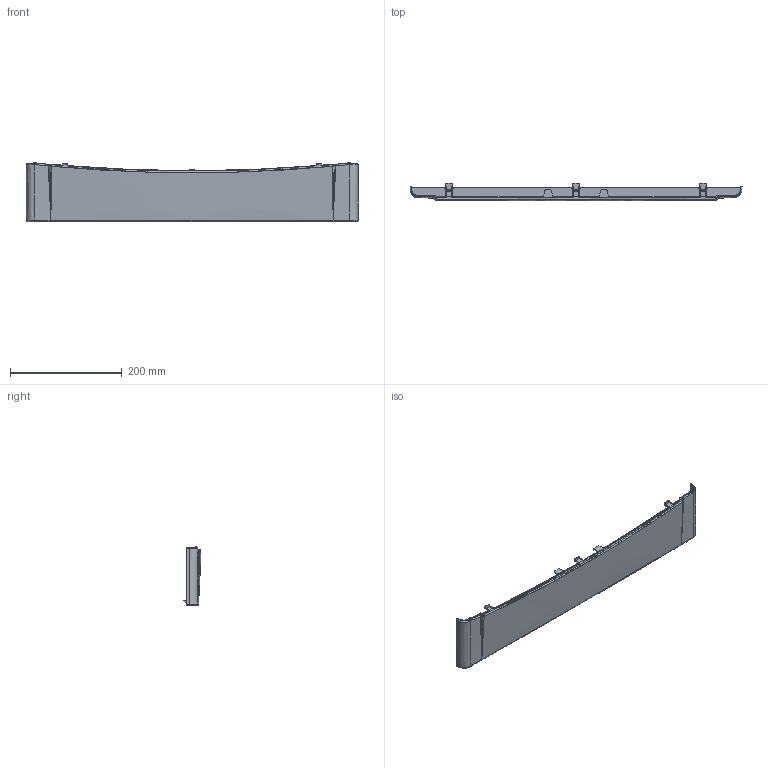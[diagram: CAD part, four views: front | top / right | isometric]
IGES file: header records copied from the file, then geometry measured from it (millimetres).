
Start section: Comment
Global section: file name: 148037201.igs; native system:  By UGS Corp.; preprocessor: XPlus GENERIC/IGES 3.0; author: Author; organization: Title; date: 20080207.142442; units: millimetre
Bounding box: 594.97 x 32.15 x 107.07 mm (x, y, z)
Surface area: 154138.3 mm2 (no closed solid volume)
Topology: 0 solids, 0 shells, 300 faces, 1785 edges, 1777 vertices
Faces by surface type: bspline 300
